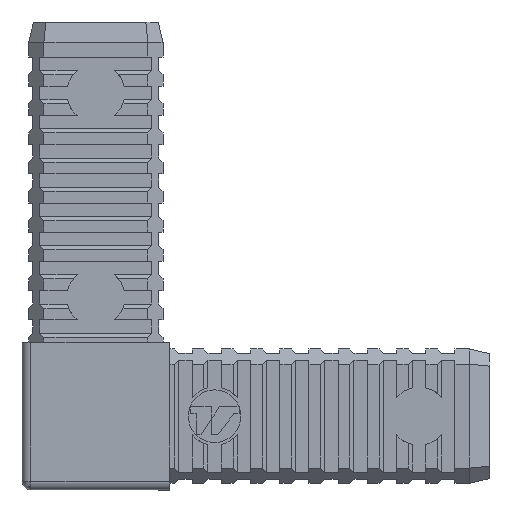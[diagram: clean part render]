
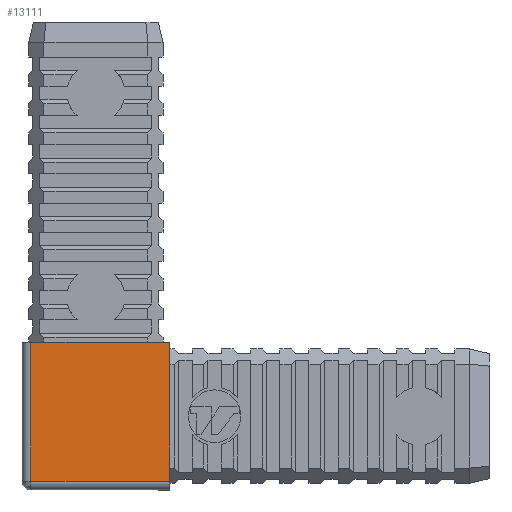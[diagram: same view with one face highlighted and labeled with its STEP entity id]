
A CAD part, left-side view. The second image highlights one B-rep face of the part: STEP entity #13111.
In plain terms, the highlighted planar face has unit normal (-1, 0, 0).
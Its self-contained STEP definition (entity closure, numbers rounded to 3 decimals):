
#302 = DIRECTION ( 'NONE',  ( 0., -1., 0. ) ) ;
#927 = VECTOR ( 'NONE', #1346, 1000. ) ;
#1346 = DIRECTION ( 'NONE',  ( 0., 1., 0. ) ) ;
#1833 = LINE ( 'NONE', #35642, #24055 ) ;
#2008 = DIRECTION ( 'NONE',  ( 0., 0., 1. ) ) ;
#5219 = ORIENTED_EDGE ( 'NONE', *, *, #26372, .T. ) ;
#5276 = FACE_OUTER_BOUND ( 'NONE', #10505, .T. ) ;
#6022 = LINE ( 'NONE', #8611, #25258 ) ;
#8247 = DIRECTION ( 'NONE',  ( -1., 0., 0. ) ) ;
#8611 = CARTESIAN_POINT ( 'NONE',  ( -12.65, -0.75, -11.15 ) ) ;
#9422 = CARTESIAN_POINT ( 'NONE',  ( -12.65, -12.65, 0.75 ) ) ;
#9852 = VERTEX_POINT ( 'NONE', #31924 ) ;
#10297 = CARTESIAN_POINT ( 'NONE',  ( -12.65, -12.65, -11.15 ) ) ;
#10474 = PLANE ( 'NONE',  #14555 ) ;
#10505 = EDGE_LOOP ( 'NONE', ( #5219, #35096, #33558, #20575 ) ) ;
#11030 = CARTESIAN_POINT ( 'NONE',  ( -12.65, -0.75, 0.75 ) ) ;
#11348 = CARTESIAN_POINT ( 'NONE',  ( -12.65, 11.15, 12.65 ) ) ;
#13111 = ADVANCED_FACE ( 'NONE', ( #5276 ), #10474, .T. ) ;
#13609 = VERTEX_POINT ( 'NONE', #11348 ) ;
#14555 = AXIS2_PLACEMENT_3D ( 'NONE', #11030, #8247, #19546 ) ;
#14909 = EDGE_CURVE ( 'NONE', #9852, #13609, #32580, .T. ) ;
#15533 = DIRECTION ( 'NONE',  ( 0., 0., 1. ) ) ;
#15589 = CARTESIAN_POINT ( 'NONE',  ( -12.65, -0.75, 12.65 ) ) ;
#17298 = EDGE_CURVE ( 'NONE', #22835, #13609, #1833, .T. ) ;
#17733 = VECTOR ( 'NONE', #15533, 1000. ) ;
#19032 = EDGE_CURVE ( 'NONE', #22835, #33488, #6022, .T. ) ;
#19073 = CARTESIAN_POINT ( 'NONE',  ( -12.65, 11.15, -11.15 ) ) ;
#19546 = DIRECTION ( 'NONE',  ( 0., -1., 0. ) ) ;
#20575 = ORIENTED_EDGE ( 'NONE', *, *, #19032, .T. ) ;
#22835 = VERTEX_POINT ( 'NONE', #19073 ) ;
#24055 = VECTOR ( 'NONE', #2008, 1000. ) ;
#25258 = VECTOR ( 'NONE', #302, 1000. ) ;
#26372 = EDGE_CURVE ( 'NONE', #33488, #9852, #32153, .T. ) ;
#31924 = CARTESIAN_POINT ( 'NONE',  ( -12.65, -12.65, 12.65 ) ) ;
#32153 = LINE ( 'NONE', #9422, #17733 ) ;
#32580 = LINE ( 'NONE', #15589, #927 ) ;
#33488 = VERTEX_POINT ( 'NONE', #10297 ) ;
#33558 = ORIENTED_EDGE ( 'NONE', *, *, #17298, .F. ) ;
#35096 = ORIENTED_EDGE ( 'NONE', *, *, #14909, .T. ) ;
#35642 = CARTESIAN_POINT ( 'NONE',  ( -12.65, 11.15, 13.84 ) ) ;
